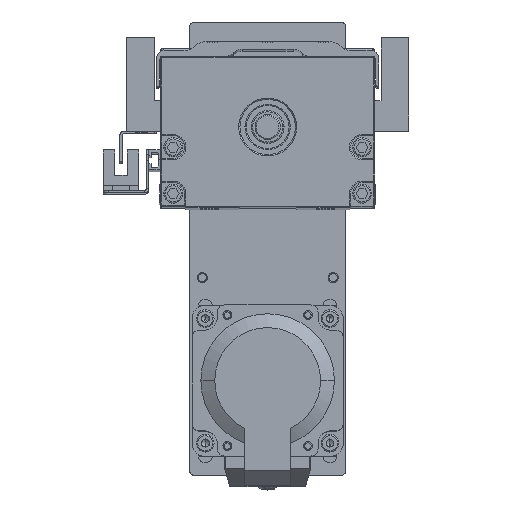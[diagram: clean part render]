
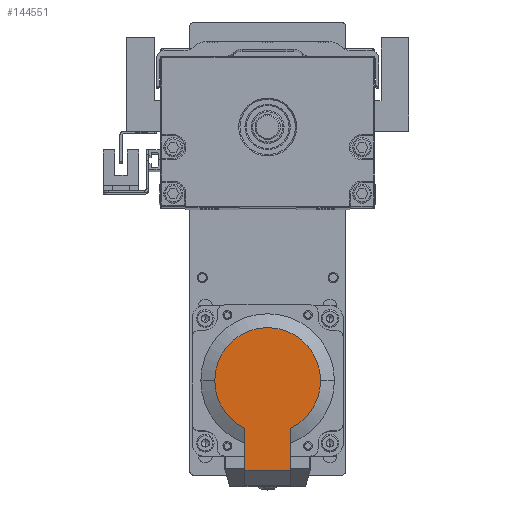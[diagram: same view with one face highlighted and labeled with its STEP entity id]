
A CAD part, top view. The second image highlights one B-rep face of the part: STEP entity #144551.
In plain terms, the highlighted planar face has unit normal (0, 0, 1).
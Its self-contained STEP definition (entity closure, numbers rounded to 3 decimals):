
#4991 = DIRECTION ( 'NONE',  ( 1., 0., 0. ) ) ;
#5112 = VECTOR ( 'NONE', #4991, 1000. ) ;
#7795 = AXIS2_PLACEMENT_3D ( 'NONE', #112903, #22314, #144735 ) ;
#9574 = VERTEX_POINT ( 'NONE', #118495 ) ;
#11069 = EDGE_CURVE ( 'NONE', #9574, #41953, #95728, .T. ) ;
#12715 = VECTOR ( 'NONE', #121709, 1000. ) ;
#14429 = EDGE_CURVE ( 'NONE', #41953, #21753, #127169, .T. ) ;
#21753 = VERTEX_POINT ( 'NONE', #74818 ) ;
#22110 = DIRECTION ( 'NONE',  ( 1., 0., 0. ) ) ;
#22314 = DIRECTION ( 'NONE',  ( 0., 0., 1. ) ) ;
#25213 = ORIENTED_EDGE ( 'NONE', *, *, #11069, .T. ) ;
#29668 = CARTESIAN_POINT ( 'NONE',  ( 85.777, 33.277, 500.168 ) ) ;
#30911 = EDGE_CURVE ( 'NONE', #85038, #43803, #72566, .T. ) ;
#36362 = ORIENTED_EDGE ( 'NONE', *, *, #14429, .T. ) ;
#40382 = DIRECTION ( 'NONE',  ( 0., 0., 1. ) ) ;
#41953 = VERTEX_POINT ( 'NONE', #60419 ) ;
#42769 = CARTESIAN_POINT ( 'NONE',  ( 104.751, 21.277, 500.168 ) ) ;
#43630 = CARTESIAN_POINT ( 'NONE',  ( 85.777, 12.277, 500.168 ) ) ;
#43803 = VERTEX_POINT ( 'NONE', #110655 ) ;
#51082 = DIRECTION ( 'NONE',  ( 0., 1., 0. ) ) ;
#54039 = CARTESIAN_POINT ( 'NONE',  ( 121.36, 21.277, 500.168 ) ) ;
#60419 = CARTESIAN_POINT ( 'NONE',  ( 104.751, 3.277, 500.168 ) ) ;
#60707 = EDGE_LOOP ( 'NONE', ( #130077, #112382, #138703, #25213, #36362, #131639 ) ) ;
#64778 = EDGE_CURVE ( 'NONE', #85038, #107597, #130172, .T. ) ;
#67018 = DIRECTION ( 'NONE',  ( 0., 1., 0. ) ) ;
#67184 = FACE_OUTER_BOUND ( 'NONE', #60707, .T. ) ;
#72566 = LINE ( 'NONE', #101497, #135380 ) ;
#74818 = CARTESIAN_POINT ( 'NONE',  ( 121.36, 3.277, 500.168 ) ) ;
#79260 = CIRCLE ( 'NONE', #7795, 21. ) ;
#83394 = DIRECTION ( 'NONE',  ( 0., 0., 1. ) ) ;
#85038 = VERTEX_POINT ( 'NONE', #42769 ) ;
#85882 = CARTESIAN_POINT ( 'NONE',  ( 85.777, 33.277, 500.168 ) ) ;
#95424 = PLANE ( 'NONE',  #122159 ) ;
#95728 = CIRCLE ( 'NONE', #137916, 21. ) ;
#98146 = LINE ( 'NONE', #54039, #12715 ) ;
#101497 = CARTESIAN_POINT ( 'NONE',  ( 121.36, 21.277, 500.168 ) ) ;
#107597 = VERTEX_POINT ( 'NONE', #85882 ) ;
#110655 = CARTESIAN_POINT ( 'NONE',  ( 121.36, 21.277, 500.168 ) ) ;
#112382 = ORIENTED_EDGE ( 'NONE', *, *, #64778, .T. ) ;
#112903 = CARTESIAN_POINT ( 'NONE',  ( 85.777, 12.277, 500.168 ) ) ;
#117481 = CARTESIAN_POINT ( 'NONE',  ( 85.777, 12.277, 500.168 ) ) ;
#118495 = CARTESIAN_POINT ( 'NONE',  ( 85.777, -8.723, 500.168 ) ) ;
#120843 = EDGE_CURVE ( 'NONE', #43803, #21753, #98146, .T. ) ;
#121709 = DIRECTION ( 'NONE',  ( 0., -1., 0. ) ) ;
#122159 = AXIS2_PLACEMENT_3D ( 'NONE', #29668, #40382, #51082 ) ;
#122495 = DIRECTION ( 'NONE',  ( 0., 0., 1. ) ) ;
#127169 = LINE ( 'NONE', #127298, #5112 ) ;
#127298 = CARTESIAN_POINT ( 'NONE',  ( 121.36, 3.277, 500.168 ) ) ;
#127310 = DIRECTION ( 'NONE',  ( 0., 1., 0. ) ) ;
#130077 = ORIENTED_EDGE ( 'NONE', *, *, #30911, .F. ) ;
#130172 = CIRCLE ( 'NONE', #138177, 21. ) ;
#131639 = ORIENTED_EDGE ( 'NONE', *, *, #120843, .F. ) ;
#135380 = VECTOR ( 'NONE', #22110, 1000. ) ;
#137916 = AXIS2_PLACEMENT_3D ( 'NONE', #117481, #83394, #127310 ) ;
#138177 = AXIS2_PLACEMENT_3D ( 'NONE', #43630, #122495, #67018 ) ;
#138671 = EDGE_CURVE ( 'NONE', #107597, #9574, #79260, .T. ) ;
#138703 = ORIENTED_EDGE ( 'NONE', *, *, #138671, .T. ) ;
#144551 = ADVANCED_FACE ( 'NONE', ( #67184 ), #95424, .T. ) ;
#144735 = DIRECTION ( 'NONE',  ( 0., 1., 0. ) ) ;
